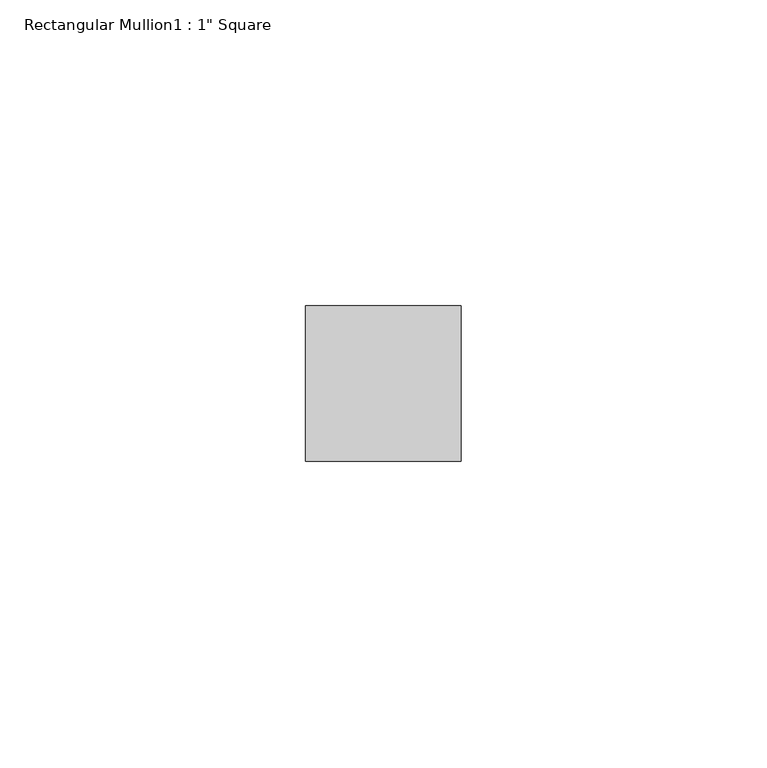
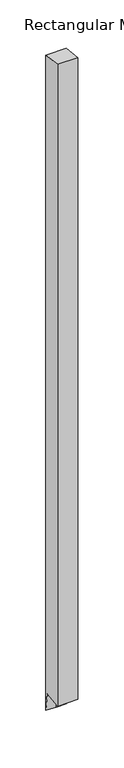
"""IFC4 building model written with IfcOpenShell, lengths in millimetres: member geometry."""

from ifc_helpers import new_model, si_unit, origin, place, context, project, spatial, faceted_brep, source, transform, mapped, element, save


def member_b6f680d5(model_context):
    return source(origin(), model_context, "Body", "Brep", [
        faceted_brep([(-12.7, -19.05, 2.4841126), (12.7, -19.05, 2.4841126), (12.7, -19.05, -867.4148084), (0.0, -19.05, -867.4148084), (-12.7, -19.05, -867.4148084), (-12.7, -44.45, 5.7962627), (-12.7, -22.1744172, -843.4544818), (-12.7, -44.45, -846.3592091), (12.7, -44.45, 5.7962627), (0.0, -44.45, -846.3592091), (12.7, -44.45, -846.3592091), (12.7, -22.1744172, -843.4544818), (0.0, -22.1744172, -843.4544818)], [[[0, 1, 2, 3, 4]], [[5, 0, 4, 6, 7]], [[8, 5, 7, 9, 10]], [[1, 8, 10, 11, 2]], [[1, 0, 5, 8]], [[2, 11, 12, 3]], [[11, 10, 9, 12]], [[9, 7, 6, 12]], [[6, 4, 3, 12]]]),
    ])


if __name__ == "__main__":
    model = new_model("IFC4")
    model_context = context("Model", 3, world=origin())
    ifc_project = project(units=[si_unit("LENGTHUNIT", "METRE", prefix="MILLI")], contexts=[model_context])
    site = spatial("IfcSite", under=ifc_project)
    building = spatial("IfcBuilding", under=site)
    placement = place(None, origin())
    member_shape = member_b6f680d5(model_context)
    element("IfcMember", 1, ObjectType="Rectangular Mullion1 : 1\" Square", at=placement, inside=building, context=model_context, shape_type="MappedRepresentation", body=[
        mapped(member_shape, transform((0.0, 0.0, 0.0), x_axis=(1.0, 0.0, 0.0), y_axis=(0.0, 1.0, 0.0), z_axis=(0.0, 0.0, 1.0))),
    ])
    save(model, "model.ifc")
